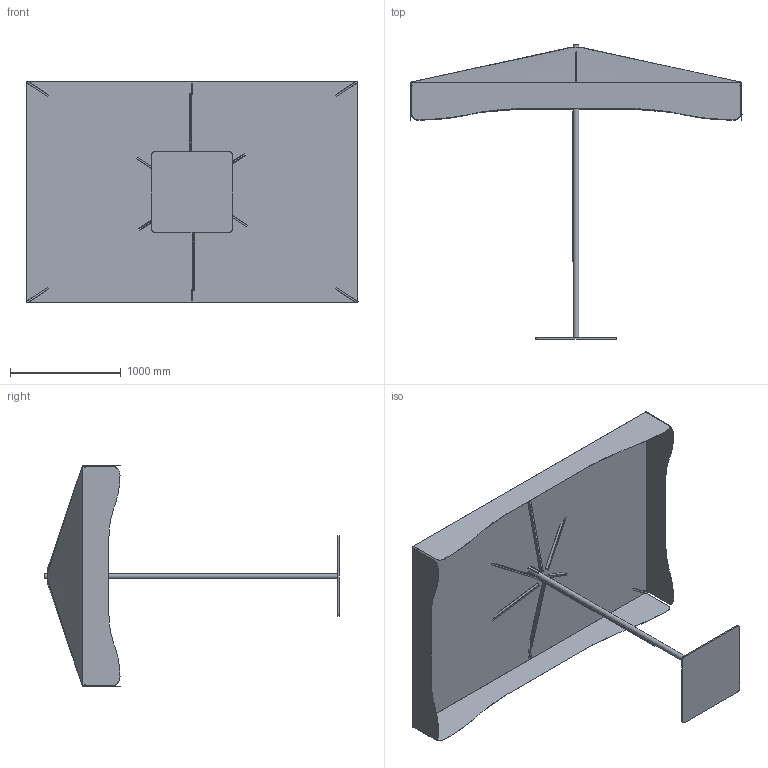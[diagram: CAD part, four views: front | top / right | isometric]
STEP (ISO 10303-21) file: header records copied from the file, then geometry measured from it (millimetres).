
FILE_DESCRIPTION(/* description */ (''),/* implementation_level */ '2;1');
FILE_NAME(/* name */ 'AMARCORD 200X300.stp',/* time_stamp */ '2025-11-17T09:40:05+01:00',/* author */ ('tecnico3'),/* organization */ (''),/* preprocessor_version */ 'ST-DEVELOPER v20',/* originating_system */ 'Autodesk Inventor 2024',/* authorisation */ '');
FILE_SCHEMA (('AUTOMOTIVE_DESIGN { 1 0 10303 214 3 1 1 }'));
Length unit declared in the file: millimetre
Products named in the file (1): EALLU007200_Semplifica_1
Bounding box: 3000 x 2662 x 2001.13 mm (x, y, z)
Volume: 678864644.5 mm3; surface area: 20524195.5 mm2
Topology: 20 solids, 20 shells, 235 faces, 578 edges, 383 vertices
Faces by surface type: plane 136, cylinder 79, bspline 20
Full cylindrical faces by diameter (mm): 3.5 x1, 50 x1, 96 x1
Entity records: 8317 total; most frequent: CARTESIAN_POINT 2513, ORIENTED_EDGE 1156, DIRECTION 1085, EDGE_CURVE 578, VERTEX_POINT 383, AXIS2_PLACEMENT_3D 379, LINE 327, VECTOR 327
